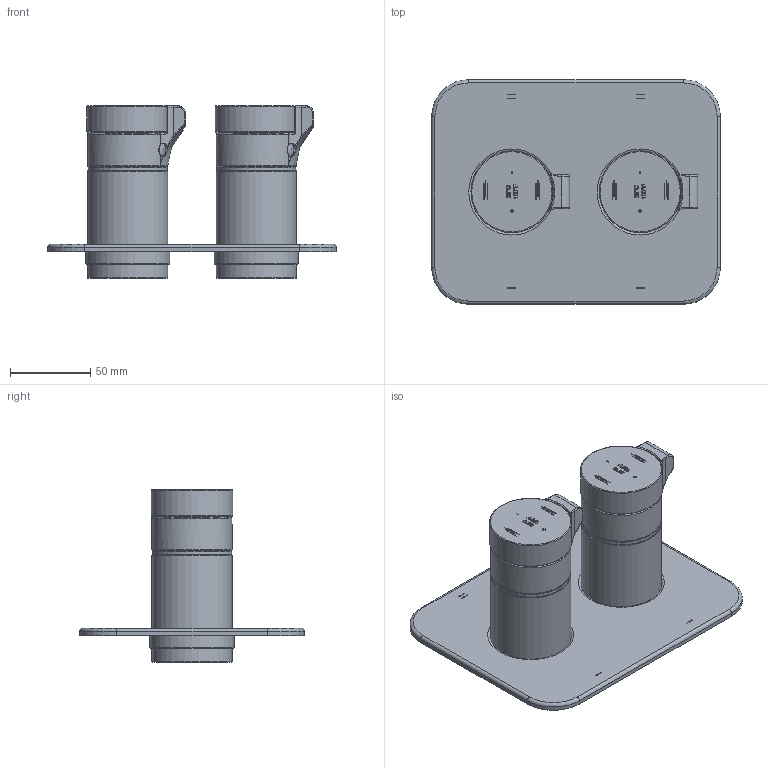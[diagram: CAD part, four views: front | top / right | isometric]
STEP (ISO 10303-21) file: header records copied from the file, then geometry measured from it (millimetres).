
FILE_DESCRIPTION(/* description */ (''),/* implementation_level */ '2;1');
FILE_NAME(/* name */ 'X:\Utilisateurs\Pierre-Hugo\TFR88 3D.stp',/* time_stamp */ '2019-05-27T10:09:14-04:00',/* author */ ('pcossett'),/* organization */ (''),/* preprocessor_version */ 'ST-DEVELOPER v16.13',/* originating_system */ 'Autodesk Inventor 2018',/* authorisation */ '');
FILE_SCHEMA (('AUTOMOTIVE_DESIGN { 1 0 10303 214 3 1 1 }'));
Length unit declared in the file: millimetre
Products named in the file (13): TFR88; 052-071; 053-004; 1621; 002-521; 002-821; 301-121; W0855-010; 390-321; 152-060; 003-013; 5788; 056-702
Assembly tree (18 placements, depth 3):
  TFR88
    052-071  x2
    053-004  x2
    1621  x2
      002-521
      002-821
      301-121
      W0855-010
      390-321
      152-060
      003-013
    5788
      056-702
Bounding box: 180 x 140 x 107.5 mm (x, y, z)
Volume: 159452.9 mm3; surface area: 158194.7 mm2
Topology: 25 solids, 25 shells, 1178 faces, 2888 edges, 1798 vertices
Faces by surface type: plane 563, cylinder 209, bspline 208, cone 94, torus 68, sphere 36
Full cylindrical faces by diameter (mm): 1.7 x4, 2.5 x4, 3 x2, 4.134 x4, 6.5 x4, 6.7 x4, 8 x6, 8.2 x4, 13 x2, 15.2 x2, 16 x8, 16.5 x2, 16.51 x2, 21.717 x2, 25.4 x2, 27 x4, 28.2 x2, 43.2 x2, 45 x4, 46.6 x2, 47 x4, 49.5 x2, 50 x4, 50.5 x2, 51 x2, 52.5 x2
Entity records: 22688 total; most frequent: CARTESIAN_POINT 10143, ORIENTED_EDGE 2522, DIRECTION 2261, EDGE_CURVE 1261, VERTEX_POINT 834, AXIS2_PLACEMENT_3D 806, EDGE_LOOP 689, LINE 649
